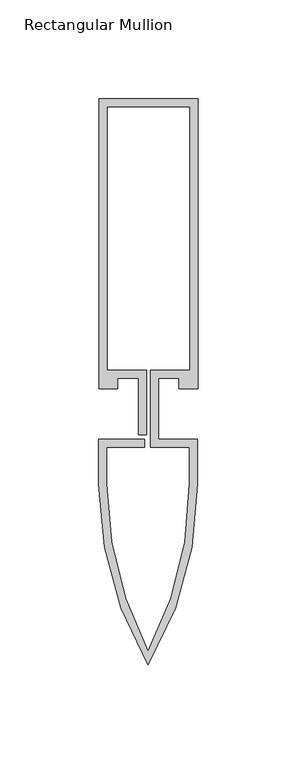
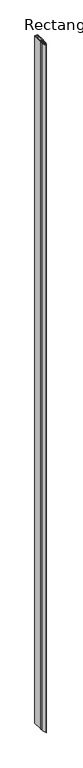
"""IFC4 building model written with IfcOpenShell, lengths in millimetres: member geometry, Rectangular Mullion : Reynaers_CW-50_Transom-Transom_146.5mm_Facecap-05."""

from ifc_helpers import new_model, si_unit, point, frame, frame_2d, origin, place, context, project, spatial, polyline, circle_curve, trimmed, segment, composite_curve, outline, extrude, source, transform, mapped, element, save


def rectangular_mullion_07f449a9(model_context):
    return source(origin(), model_context, "Body", "SweptSolid", [
        extrude(outline(composite_curve([segment(polyline([(25.1995941, 12.7331291), (15.499, 12.7331291), (15.499, 18.1331291), (5.2995941, 18.1331291), (5.2995941, -12.7331291), (24.994845, -12.7331291), (24.994845, -35.5313894)]), True, "CONTINUOUS"), segment(trimmed(circle_curve(frame_2d((-153.8920333, -35.5313894)), 178.8868784), [point((24.994845, -35.5313894))], [point((0.0, -126.7331291))], False, "CARTESIAN"), True, "CONTINUOUS"), segment(trimmed(circle_curve(frame_2d((153.8920333, -35.5313894)), 178.8868784), [point((0.0, -126.7331291))], [point((-24.994845, -35.5313894))], False, "CARTESIAN"), True, "CONTINUOUS"), segment(polyline([(-24.994845, -35.5313894), (-24.994845, -12.7331291), (-1.9004059, -12.7331291), (-1.9004059, -16.7331291), (-20.994845, -16.7331291), (-20.994845, -35.5313894)]), True, "CONTINUOUS"), segment(trimmed(circle_curve(frame_2d((158.3679339, -35.5313894)), 179.3627789), [point((-20.994845, -35.5313894))], [point((0.0, -119.7371135))], True, "CARTESIAN"), True, "CONTINUOUS"), segment(trimmed(circle_curve(frame_2d((-158.3679339, -35.5313894)), 179.3627789), [point((0.0, -119.7371135))], [point((20.994845, -35.5313894))], True, "CARTESIAN"), True, "CONTINUOUS"), segment(polyline([(20.994845, -35.5313894), (20.994845, -16.7331291), (1.2995941, -16.7331291), (1.2995941, 22.1331291), (21.1995941, 22.1331291), (21.1995941, 155.2331291), (-20.8004059, 155.2331291), (-20.8004059, 22.1331291), (-0.9004059, 22.1331291), (-0.9004059, -10.5), (-4.9004059, -10.5), (-4.9004059, 18.1331291), (-15.499, 18.1331291), (-15.499, 12.7331291), (-24.8004059, 12.7331291), (-24.8004059, 159.2331291), (25.1995941, 159.2331291), (25.1995941, 12.7331291)]), True, "CONTINUOUS")], self_intersect=False)), frame((0.0, 0.0, -12000.0), z_axis=(0.0, 0.0, 1.0), x_axis=(1.0, 0.0, 0.0)), (0.0, 0.0, 1.0), 12000.0),
    ])


if __name__ == "__main__":
    model = new_model("IFC4")
    model_context = context("Model", 3, world=origin())
    ifc_project = project(units=[si_unit("LENGTHUNIT", "METRE", prefix="MILLI")], contexts=[model_context])
    site = spatial("IfcSite", under=ifc_project)
    building = spatial("IfcBuilding", under=site)
    placement = place(None, origin())
    rectangular_mullion_shape = rectangular_mullion_07f449a9(model_context)
    element("IfcMember", 1, ObjectType="Rectangular Mullion : Reynaers_CW-50_Transom-Transom_146.5mm_Facecap-05", at=placement, inside=building, context=model_context, shape_type="MappedRepresentation", body=[
        mapped(rectangular_mullion_shape, transform((0.0, 0.0, 0.0), x_axis=(1.0, 0.0, 0.0), y_axis=(0.0, 1.0, 0.0), z_axis=(0.0, 0.0, 1.0))),
    ])
    save(model, "model.ifc")
